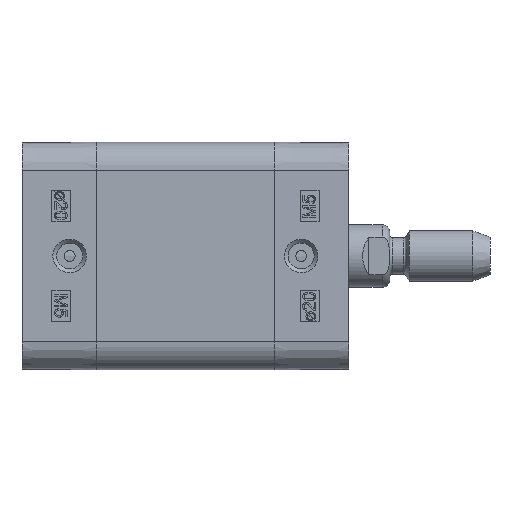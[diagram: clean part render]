
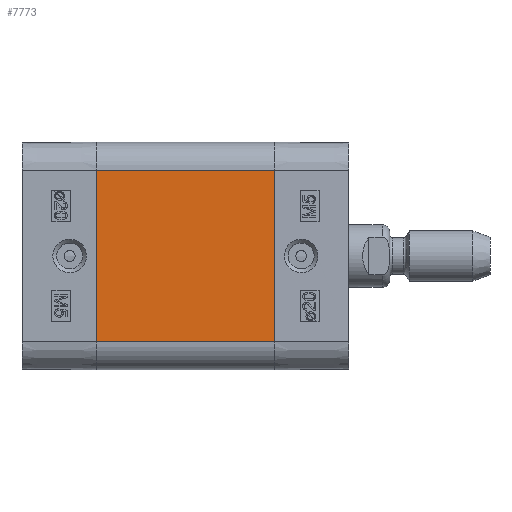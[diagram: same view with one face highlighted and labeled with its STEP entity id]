
A CAD part, left-side view. The second image highlights one B-rep face of the part: STEP entity #7773.
In plain terms, the highlighted planar face has unit normal (-1, 0, 0).
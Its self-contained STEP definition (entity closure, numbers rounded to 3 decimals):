
#6294=CARTESIAN_POINT('',(-18.15,-28.5,13.65));
#6295=VERTEX_POINT('',#6294);
#6302=CARTESIAN_POINT('',(-18.15,-28.5,-13.65));
#6303=VERTEX_POINT('',#6302);
#6304=CARTESIAN_POINT('',(-18.15,-28.5,-13.65));
#6305=DIRECTION('',(0.0,0.0,1.0));
#6306=VECTOR('',#6305,27.3);
#6307=LINE('',#6304,#6306);
#6308=EDGE_CURVE('',#6303,#6295,#6307,.T.);
#7731=CARTESIAN_POINT('',(-18.15,0.0,-13.65));
#7732=VERTEX_POINT('',#7731);
#7733=CARTESIAN_POINT('',(-18.15,0.0,-13.65));
#7734=DIRECTION('',(0.0,-1.0,0.0));
#7735=VECTOR('',#7734,28.5);
#7736=LINE('',#7733,#7735);
#7737=EDGE_CURVE('',#7732,#6303,#7736,.T.);
#7750=CARTESIAN_POINT('',(-18.15,0.0,-13.65));
#7751=DIRECTION('',(-1.0,0.0,0.0));
#7752=DIRECTION('',(0.0,0.0,1.0));
#7753=AXIS2_PLACEMENT_3D('',#7750,#7751,#7752);
#7754=PLANE('',#7753);
#7755=ORIENTED_EDGE('',*,*,#6308,.T.);
#7756=CARTESIAN_POINT('',(-18.15,0.0,13.65));
#7757=VERTEX_POINT('',#7756);
#7758=CARTESIAN_POINT('',(-18.15,0.0,13.65));
#7759=DIRECTION('',(0.0,-1.0,0.0));
#7760=VECTOR('',#7759,28.5);
#7761=LINE('',#7758,#7760);
#7762=EDGE_CURVE('',#7757,#6295,#7761,.T.);
#7763=ORIENTED_EDGE('',*,*,#7762,.F.);
#7764=CARTESIAN_POINT('',(-18.15,0.0,-13.65));
#7765=DIRECTION('',(0.0,0.0,1.0));
#7766=VECTOR('',#7765,27.3);
#7767=LINE('',#7764,#7766);
#7768=EDGE_CURVE('',#7732,#7757,#7767,.T.);
#7769=ORIENTED_EDGE('',*,*,#7768,.F.);
#7770=ORIENTED_EDGE('',*,*,#7737,.T.);
#7771=EDGE_LOOP('',(#7755,#7763,#7769,#7770));
#7772=FACE_OUTER_BOUND('',#7771,.T.);
#7773=ADVANCED_FACE('',(#7772),#7754,.T.);
